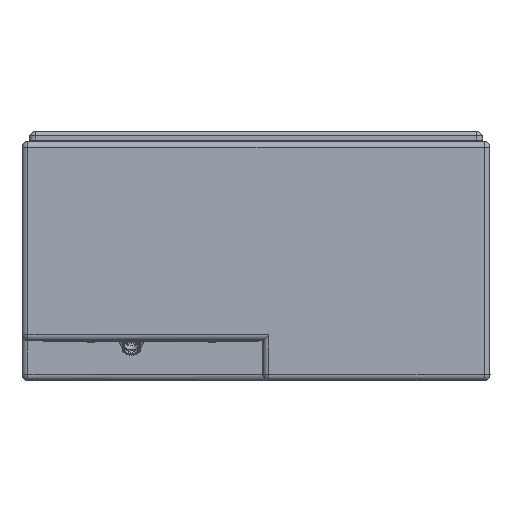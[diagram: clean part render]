
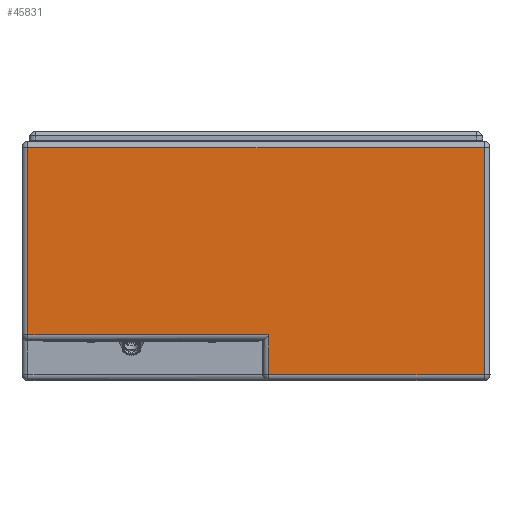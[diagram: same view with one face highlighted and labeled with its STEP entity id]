
A CAD part, front view. The second image highlights one B-rep face of the part: STEP entity #45831.
In plain terms, the highlighted planar face has unit normal (0, -1, 0).
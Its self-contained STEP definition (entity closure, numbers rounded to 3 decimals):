
#4829=LINE('',#79290,#8583);
#4830=LINE('',#79292,#8584);
#4831=LINE('',#79294,#8585);
#4832=LINE('',#79296,#8586);
#4833=LINE('',#79298,#8587);
#4834=LINE('',#79299,#8588);
#8583=VECTOR('',#59592,1000.);
#8584=VECTOR('',#59593,1000.);
#8585=VECTOR('',#59594,1000.);
#8586=VECTOR('',#59595,1000.);
#8587=VECTOR('',#59596,1000.);
#8588=VECTOR('',#59597,1000.);
#12215=FACE_OUTER_BOUND('',#15018,.T.);
#15018=EDGE_LOOP('',(#38224,#38225,#38226,#38227,#38228,#38229));
#20925=VERTEX_POINT('',#79288);
#20926=VERTEX_POINT('',#79289);
#20927=VERTEX_POINT('',#79291);
#20928=VERTEX_POINT('',#79293);
#20929=VERTEX_POINT('',#79295);
#20930=VERTEX_POINT('',#79297);
#26893=EDGE_CURVE('',#20925,#20926,#4829,.T.);
#26894=EDGE_CURVE('',#20926,#20927,#4830,.T.);
#26895=EDGE_CURVE('',#20927,#20928,#4831,.T.);
#26896=EDGE_CURVE('',#20928,#20929,#4832,.T.);
#26897=EDGE_CURVE('',#20929,#20930,#4833,.T.);
#26898=EDGE_CURVE('',#20930,#20925,#4834,.T.);
#38224=ORIENTED_EDGE('',*,*,#26893,.T.);
#38225=ORIENTED_EDGE('',*,*,#26894,.T.);
#38226=ORIENTED_EDGE('',*,*,#26895,.T.);
#38227=ORIENTED_EDGE('',*,*,#26896,.T.);
#38228=ORIENTED_EDGE('',*,*,#26897,.T.);
#38229=ORIENTED_EDGE('',*,*,#26898,.T.);
#43373=PLANE('',#49479);
#45831=ADVANCED_FACE('',(#12215),#43373,.T.);
#49479=AXIS2_PLACEMENT_3D('',#79287,#59590,#59591);
#59590=DIRECTION('center_axis',(0.,-1.,0.));
#59591=DIRECTION('ref_axis',(0.,0.,
1.));
#59592=DIRECTION('',(0.,0.,-1.));
#59593=DIRECTION('',(1.,0.,0.));
#59594=DIRECTION('',(0.,0.,1.));
#59595=DIRECTION('',(-1.,0.,0.));
#59596=DIRECTION('',(0.,0.,-1.));
#59597=DIRECTION('',(1.,0.,0.));
#79287=CARTESIAN_POINT('Origin',(0.,-717.611,
100.587));
#79288=CARTESIAN_POINT('',(13.,-717.611,26.587));
#79289=CARTESIAN_POINT('',(13.,-717.611,-13.413));
#79290=CARTESIAN_POINT('',(13.,-717.611,100.587));
#79291=CARTESIAN_POINT('',(229.,-717.611,-13.413));
#79292=CARTESIAN_POINT('',(0.,-717.611,-13.413));
#79293=CARTESIAN_POINT('',(229.,-717.611,214.587));
#79294=CARTESIAN_POINT('',(229.,-717.611,100.587));
#79295=CARTESIAN_POINT('',(-229.,-717.611,214.587));
#79296=CARTESIAN_POINT('',(0.,-717.611,214.587));
#79297=CARTESIAN_POINT('',(-229.,-717.611,26.587));
#79298=CARTESIAN_POINT('',(-229.,-717.611,100.587));
#79299=CARTESIAN_POINT('',(0.,-717.611,26.587));
